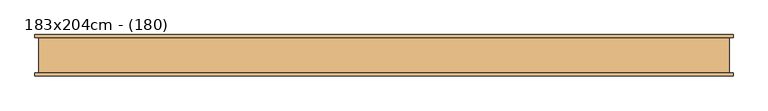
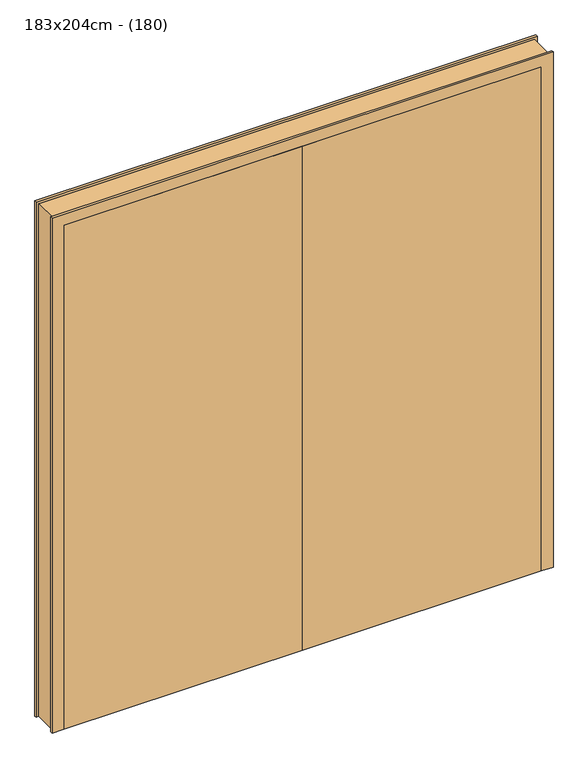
"""IFC4 building model written with IfcOpenShell, lengths in millimetres: door geometry, Int. Double vantaux : 183x204cm - (180)."""

from ifc_helpers import new_model, si_unit, origin, origin_with_axes, place, context, project, spatial, polyline, outline, extrude, faceted_brep, source, transform, mapped, element, save


def door_183x204cm_180_7e80bb32(model_context):
    return source(origin(), model_context, "Body", "SolidModel", [
        faceted_brep([(-950.0, -49.0, 0.0), (-950.0, 49.0, 0.0), (-960.0, 49.0, 0.0), (-960.0, 57.0, 0.0), (-900.0, 57.0, 0.0), (-900.0, -17.0, 0.0), (-915.0, -17.0, 0.0), (-915.0, -57.0, 0.0), (-960.0, -57.0, 0.0), (-960.0, -49.0, 0.0), (-950.0, -49.0, 2075.0), (-950.0, 49.0, 2075.0), (950.0, 49.0, 2075.0), (950.0, 49.0, 0.0), (960.0, 49.0, 0.0), (960.0, 49.0, 2085.0), (-960.0, 49.0, 2085.0), (-960.0, 57.0, 2085.0), (960.0, 57.0, 2085.0), (960.0, 57.0, 0.0), (900.0, 57.0, 0.0), (900.0, 57.0, 2025.0), (-900.0, 57.0, 2025.0), (-900.0, -17.0, 2025.0), (900.0, -17.0, 2025.0), (900.0, -17.0, 0.0), (915.0, -17.0, 0.0), (915.0, -17.0, 2040.0), (-915.0, -17.0, 2040.0), (-915.0, -57.0, 2040.0), (915.0, -57.0, 2040.0), (915.0, -57.0, 0.0), (960.0, -57.0, 0.0), (960.0, -57.0, 2085.0), (-960.0, -57.0, 2085.0), (-960.0, -49.0, 2085.0), (960.0, -49.0, 2085.0), (960.0, -49.0, 0.0), (950.0, -49.0, 0.0), (950.0, -49.0, 2075.0)], [[[0, 1, 2, 3, 4, 5, 6, 7, 8, 9]], [[1, 0, 10, 11]], [[2, 1, 11, 12, 13, 14, 15, 16]], [[3, 2, 16, 17]], [[4, 3, 17, 18, 19, 20, 21, 22]], [[5, 4, 22, 23]], [[6, 5, 23, 24, 25, 26, 27, 28]], [[7, 6, 28, 29]], [[8, 7, 29, 30, 31, 32, 33, 34]], [[9, 8, 34, 35]], [[0, 9, 35, 36, 37, 38, 39, 10]], [[12, 39, 38, 13]], [[38, 37, 32, 31, 26, 25, 20, 19, 14, 13]], [[18, 15, 14, 19]], [[24, 21, 20, 25]], [[30, 27, 26, 31]], [[36, 33, 32, 37]], [[11, 10, 39, 12]], [[17, 16, 15, 18]], [[23, 22, 21, 24]], [[29, 28, 27, 30]], [[35, 34, 33, 36]]]),
        extrude(outline(polyline([(915.0, -57.0), (0.0, -57.0), (0.0, -17.0), (915.0, -17.0), (915.0, -57.0)])), origin_with_axes(), (0.0, 0.0, 1.0), 2040.0),
        extrude(outline(polyline([(0.0, -57.0), (-915.0, -57.0), (-915.0, -17.0), (0.0, -17.0), (0.0, -57.0)])), origin_with_axes(), (0.0, 0.0, 1.0), 2040.0),
    ])


if __name__ == "__main__":
    model = new_model("IFC4")
    model_context = context("Model", 3, world=origin())
    ifc_project = project(units=[si_unit("LENGTHUNIT", "METRE", prefix="MILLI")], contexts=[model_context])
    site = spatial("IfcSite", under=ifc_project)
    building = spatial("IfcBuilding", under=site)
    placement = place(None, origin())
    door_183x204cm_180_shape = door_183x204cm_180_7e80bb32(model_context)
    element("IfcDoor", 1, ObjectType="Int. Double vantaux : 183x204cm - (180)", at=placement, inside=building, context=model_context, shape_type="MappedRepresentation", body=[
        mapped(door_183x204cm_180_shape, transform((0.0, 0.0, 0.0), x_axis=(1.0, 0.0, 0.0), y_axis=(0.0, 1.0, 0.0), z_axis=(0.0, 0.0, 1.0))),
    ])
    save(model, "model.ifc")
